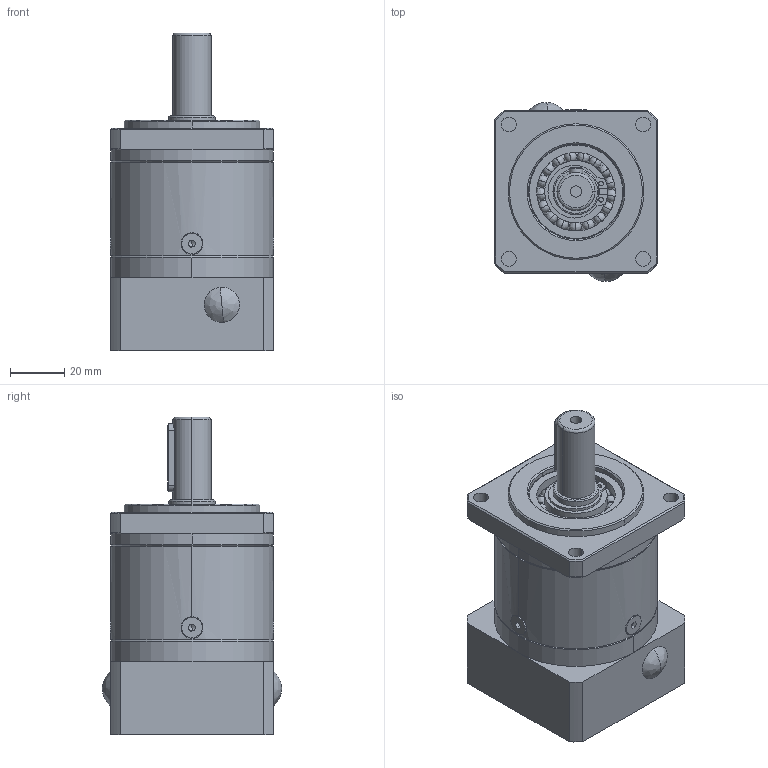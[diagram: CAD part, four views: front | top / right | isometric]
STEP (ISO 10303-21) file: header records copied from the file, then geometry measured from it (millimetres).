
FILE_DESCRIPTION (( 'STEP AP214' ), '1' );
FILE_NAME ('PF60L1-50-14-M5.STEP', '2020-09-02T09:05:14', ( '微软用户' ), ( '微软中国' ), 'SwSTEP 2.0', 'SolidWorks 2014', '' );
FILE_SCHEMA (( 'AUTOMOTIVE_DESIGN' ));
Length unit declared in the file: millimetre
Products named in the file (59): Circlips for hole--Type B GB_GB_CONNECTING_PIECE_RINGS_CHB 37; 薊粣ん14; Deep groove ball bearings GB_Rolling bearings 6003 GB 276-94; Circlips for hole--Type B GB_GB_CONNECTING_PIECE_RINGS_CHB 35; O形密封圈2X35; 俴陎粣7X13.5; 俴陎謫8A; 黑裔9; 路燭菜え18X49.5; 怀堤傷裔; PF60L1-50-14-M5; 怀堤粣8A; Hexagon socket countersunk head screws GB_GB_FASTENER_SCREWS_HSCHS M4X10-N; Circlips for shaft--Type A large GB_GB_CONNECTING_PIECE_RING_RRA 17; Hexagon socket head cap screws GB_GB_FASTENER_SCREWS_HSHCS M5X16-N; Circlips for shaft--Type A large GB_GB_CONNECTING_PIECE_RING_RRA 20; Plain parallel keys_GB_CONNECTING_PIECE_KEYS_CSK 5X25; 俴陎謫菜え7.2X17; 幗渀粣創7X10; 输入端盖; 珨撰怮栠謫8A; 一级内齿圈; Deep groove ball bearings GB_Rolling bearings 61904 GB 276-94
Assembly tree (36 placements, depth 2):
  薊粣ん14
  Circlips for hole--Type B GB_GB_CONNECTING_PIECE_RINGS_CHB 35
  Deep groove ball bearings GB_Rolling bearings 6003 GB 276-94
  O形密封圈2X35
  俴陎粣7X13.5
Bounding box: 60.36 x 66 x 117 mm (x, y, z)
Volume: 209484.6 mm3; surface area: 100770.6 mm2
Topology: 36 solids, 36 shells, 1055 faces, 3284 edges, 2053 vertices
Faces by surface type: cylinder 351, bspline 283, plane 253, cone 117, sphere 51
Entity records: 42226 total; most frequent: CARTESIAN_POINT 13617, ORIENTED_EDGE 4394, DIRECTION 3567, EDGE_CURVE 2197, AXIS2_PLACEMENT_3D 1509, VERTEX_POINT 1440, CIRCLE 893, EDGE_LOOP 885
